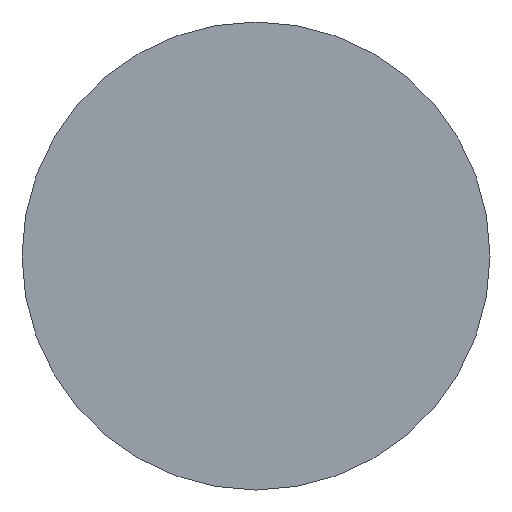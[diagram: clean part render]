
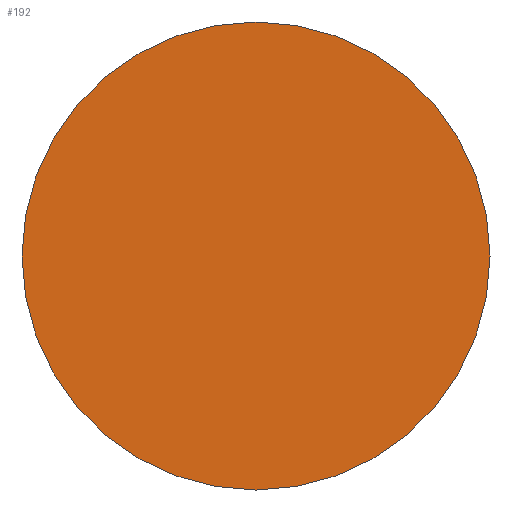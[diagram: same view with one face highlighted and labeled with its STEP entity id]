
A CAD part, left-side view. The second image highlights one B-rep face of the part: STEP entity #192.
In plain terms, the highlighted planar face has unit normal (-1, 0, 0).
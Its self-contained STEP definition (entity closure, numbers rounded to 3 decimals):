
#2 = EDGE_CURVE ( 'NONE', #277, #332, #23, .T. ) ;
#15 = EDGE_LOOP ( 'NONE', ( #325, #125 ) ) ;
#23 = CIRCLE ( 'NONE', #24, 15. ) ;
#24 = AXIS2_PLACEMENT_3D ( 'NONE', #25, #26, #27 ) ;
#25 = CARTESIAN_POINT ( 'NONE',  ( 0., 0., 0. ) ) ;
#26 = DIRECTION ( 'NONE',  ( -1., 0., 0. ) ) ;
#27 = DIRECTION ( 'NONE',  ( 0., 0., 1. ) ) ;
#100 = CARTESIAN_POINT ( 'NONE',  ( 0., 0., 15. ) ) ;
#122 = FACE_OUTER_BOUND ( 'NONE', #15, .T. ) ;
#123 = PLANE ( 'NONE',  #124 ) ;
#124 = AXIS2_PLACEMENT_3D ( 'NONE', #126, #127, #128 ) ;
#125 = ORIENTED_EDGE ( 'NONE', *, *, #2, .T. ) ;
#126 = CARTESIAN_POINT ( 'NONE',  ( 0., 0., 0. ) ) ;
#127 = DIRECTION ( 'NONE',  ( 1., 0., 0. ) ) ;
#128 = DIRECTION ( 'NONE',  ( 0., 0., -1. ) ) ;
#146 = CIRCLE ( 'NONE', #147, 15. ) ;
#147 = AXIS2_PLACEMENT_3D ( 'NONE', #148, #149, #150 ) ;
#148 = CARTESIAN_POINT ( 'NONE',  ( 0., 0., 0. ) ) ;
#149 = DIRECTION ( 'NONE',  ( -1., 0., 0. ) ) ;
#150 = DIRECTION ( 'NONE',  ( 0., 0., 1. ) ) ;
#182 = CARTESIAN_POINT ( 'NONE',  ( 0., 0., -15. ) ) ;
#192 = ADVANCED_FACE ( 'NONE', ( #122 ), #123, .F. ) ;
#223 = EDGE_CURVE ( 'NONE', #332, #277, #146, .T. ) ;
#277 = VERTEX_POINT ( 'NONE', #182 ) ;
#325 = ORIENTED_EDGE ( 'NONE', *, *, #223, .T. ) ;
#332 = VERTEX_POINT ( 'NONE', #100 ) ;
